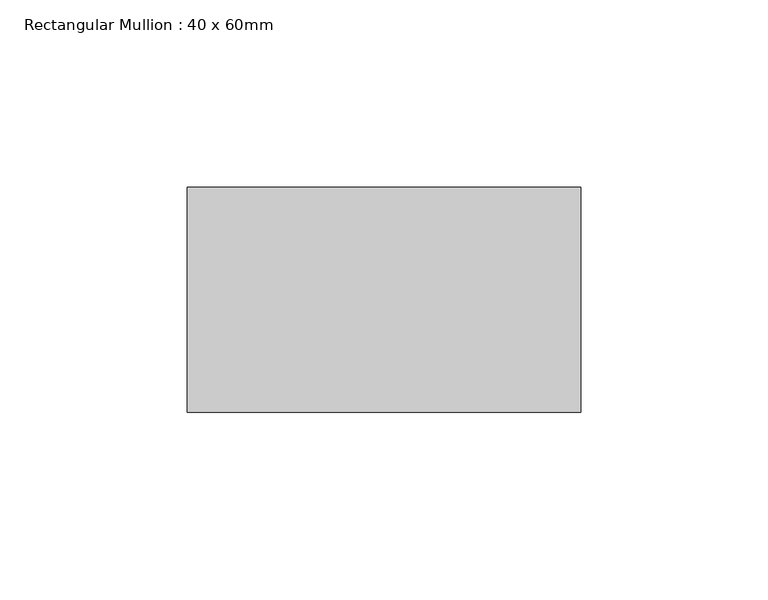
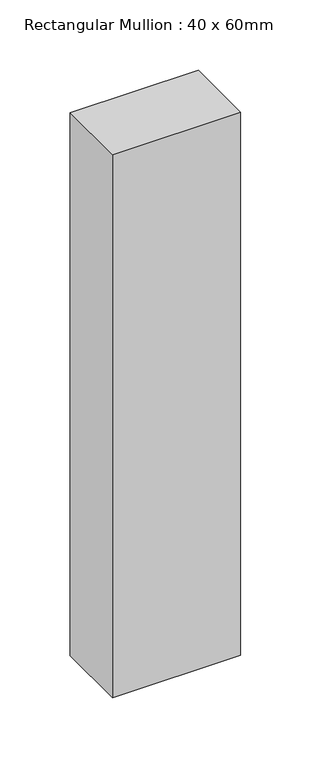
"""IFC4 building model written with IfcOpenShell, lengths in millimetres: member geometry, Rectangular Mullion : 40 x 60mm."""

from ifc_helpers import new_model, si_unit, frame, origin, place, context, project, spatial, polyline, outline, extrude, source, transform, mapped, element, save


def rectangular_mullion_40_x_60mm_2f1a1571(model_context):
    return source(origin(), model_context, "Body", "SweptSolid", [
        extrude(outline(polyline([(0.0, -10.0), (0.0, -70.0), (-105.0, -70.0), (-105.0, -10.0), (0.0, -10.0)])), frame((0.0, 0.0, -470.0), z_axis=(0.0, 0.0, 1.0), x_axis=(1.0, 0.0, 0.0)), (0.0, 0.0, 1.0), 470.0),
    ])


if __name__ == "__main__":
    model = new_model("IFC4")
    model_context = context("Model", 3, world=origin())
    ifc_project = project(units=[si_unit("LENGTHUNIT", "METRE", prefix="MILLI")], contexts=[model_context])
    site = spatial("IfcSite", under=ifc_project)
    building = spatial("IfcBuilding", under=site)
    placement = place(None, origin())
    rectangular_mullion_40_x_60mm_shape = rectangular_mullion_40_x_60mm_2f1a1571(model_context)
    element("IfcMember", 1, ObjectType="Rectangular Mullion : 40 x 60mm", at=placement, inside=building, context=model_context, shape_type="MappedRepresentation", body=[
        mapped(rectangular_mullion_40_x_60mm_shape, transform((0.0, 0.0, 0.0), x_axis=(1.0, 0.0, 0.0), y_axis=(0.0, 1.0, 0.0), z_axis=(0.0, 0.0, 1.0))),
    ])
    save(model, "model.ifc")
